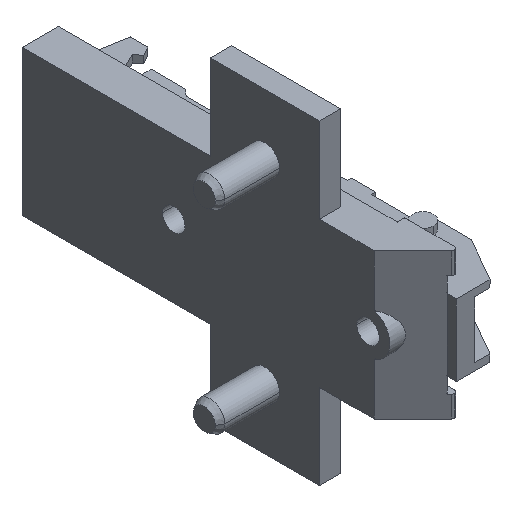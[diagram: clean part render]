
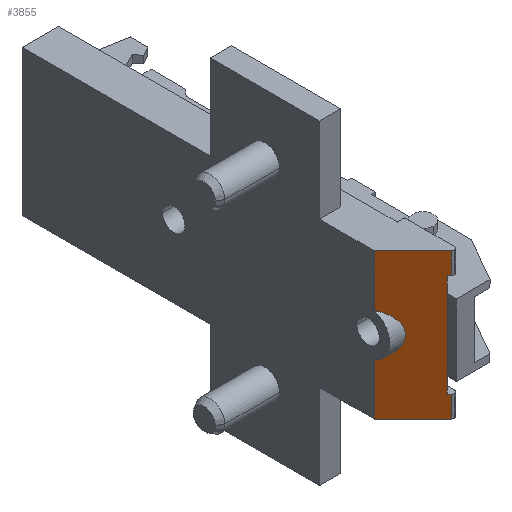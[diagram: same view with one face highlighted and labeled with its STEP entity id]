
A CAD part, isometric view. The second image highlights one B-rep face of the part: STEP entity #3855.
In plain terms, the highlighted planar face has unit normal (-0.707, -0.707, 0).
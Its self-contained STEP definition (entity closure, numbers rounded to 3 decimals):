
#2 =( BOUNDED_CURVE ( )  B_SPLINE_CURVE ( 3, ( #2893, #2908, #2910, #2911 ),
 .UNSPECIFIED., .F., .T. ) 
 B_SPLINE_CURVE_WITH_KNOTS ( ( 4, 4 ),
 ( 1.854, 4.429 ),
 .UNSPECIFIED. ) 
 CURVE ( )  GEOMETRIC_REPRESENTATION_ITEM ( )  RATIONAL_B_SPLINE_CURVE ( ( 1., 0.52, 0.52, 1. ) ) 
 REPRESENTATION_ITEM ( '' )  );
#5 = FACE_OUTER_BOUND ( 'NONE', #394, .T. ) ;
#122 = ORIENTED_EDGE ( 'NONE', *, *, #1398, .T. ) ;
#123 = ORIENTED_EDGE ( 'NONE', *, *, #1395, .T. ) ;
#162 = ORIENTED_EDGE ( 'NONE', *, *, #1393, .F. ) ;
#167 = ORIENTED_EDGE ( 'NONE', *, *, #1625, .T. ) ;
#171 = ORIENTED_EDGE ( 'NONE', *, *, #1384, .F. ) ;
#215 = VECTOR ( 'NONE', #2823, 1000. ) ;
#394 = EDGE_LOOP ( 'NONE', ( #162, #123, #511, #171, #167, #122, #502, #530, #516, #517, #582, #581 ) ) ;
#502 = ORIENTED_EDGE ( 'NONE', *, *, #1340, .T. ) ;
#511 = ORIENTED_EDGE ( 'NONE', *, *, #1597, .F. ) ;
#516 = ORIENTED_EDGE ( 'NONE', *, *, #1350, .T. ) ;
#517 = ORIENTED_EDGE ( 'NONE', *, *, #1399, .T. ) ;
#530 = ORIENTED_EDGE ( 'NONE', *, *, #1396, .F. ) ;
#581 = ORIENTED_EDGE ( 'NONE', *, *, #1382, .T. ) ;
#582 = ORIENTED_EDGE ( 'NONE', *, *, #1643, .T. ) ;
#873 = LINE ( 'NONE', #2167, #973 ) ;
#911 = VECTOR ( 'NONE', #3020, 1000. ) ;
#967 = LINE ( 'NONE', #3023, #911 ) ;
#973 = VECTOR ( 'NONE', #3066, 1000. ) ;
#1028 = VECTOR ( 'NONE', #2943, 1000. ) ;
#1031 = VECTOR ( 'NONE', #2935, 1000. ) ;
#1033 = LINE ( 'NONE', #2940, #1028 ) ;
#1035 = LINE ( 'NONE', #2919, #1037 ) ;
#1037 = VECTOR ( 'NONE', #2924, 1000. ) ;
#1038 = VECTOR ( 'NONE', #2891, 1000. ) ;
#1039 = LINE ( 'NONE', #2890, #1038 ) ;
#1045 = LINE ( 'NONE', #2927, #1031 ) ;
#1057 = LINE ( 'NONE', #2827, #1060 ) ;
#1060 = VECTOR ( 'NONE', #2828, 1000. ) ;
#1062 = LINE ( 'NONE', #2822, #215 ) ;
#1134 = VECTOR ( 'NONE', #3561, 1000. ) ;
#1160 = VECTOR ( 'NONE', #3288, 1000. ) ;
#1187 = LINE ( 'NONE', #3290, #1160 ) ;
#1225 = LINE ( 'NONE', #3557, #1134 ) ;
#1260 = LINE ( 'NONE', #3522, #1262 ) ;
#1262 = VECTOR ( 'NONE', #3521, 1000. ) ;
#1340 = EDGE_CURVE ( 'NONE', #2107, #2068, #873, .T. ) ;
#1350 = EDGE_CURVE ( 'NONE', #2187, #2184, #967, .T. ) ;
#1382 = EDGE_CURVE ( 'NONE', #1999, #2183, #1062, .T. ) ;
#1384 = EDGE_CURVE ( 'NONE', #2178, #2168, #1057, .T. ) ;
#1393 = EDGE_CURVE ( 'NONE', #2044, #2183, #1039, .T. ) ;
#1395 = EDGE_CURVE ( 'NONE', #2044, #2171, #2, .T. ) ;
#1396 = EDGE_CURVE ( 'NONE', #2187, #2068, #1035, .T. ) ;
#1398 = EDGE_CURVE ( 'NONE', #2043, #2107, #1045, .T. ) ;
#1399 = EDGE_CURVE ( 'NONE', #2184, #2177, #1033, .T. ) ;
#1597 = EDGE_CURVE ( 'NONE', #2168, #2171, #1187, .T. ) ;
#1625 = EDGE_CURVE ( 'NONE', #2178, #2043, #1260, .T. ) ;
#1643 = EDGE_CURVE ( 'NONE', #2177, #1999, #1225, .T. ) ;
#1999 = VERTEX_POINT ( 'NONE', #3738 ) ;
#2043 = VERTEX_POINT ( 'NONE', #3695 ) ;
#2044 = VERTEX_POINT ( 'NONE', #3694 ) ;
#2068 = VERTEX_POINT ( 'NONE', #3754 ) ;
#2107 = VERTEX_POINT ( 'NONE', #3811 ) ;
#2167 = CARTESIAN_POINT ( 'NONE',  ( 6., -24.007, -12. ) ) ;
#2168 = VERTEX_POINT ( 'NONE', #3475 ) ;
#2171 = VERTEX_POINT ( 'NONE', #3467 ) ;
#2177 = VERTEX_POINT ( 'NONE', #3482 ) ;
#2178 = VERTEX_POINT ( 'NONE', #3419 ) ;
#2183 = VERTEX_POINT ( 'NONE', #3415 ) ;
#2184 = VERTEX_POINT ( 'NONE', #3321 ) ;
#2187 = VERTEX_POINT ( 'NONE', #3416 ) ;
#2822 = CARTESIAN_POINT ( 'NONE',  ( 6.347, -24.354, 12. ) ) ;
#2823 = DIRECTION ( 'NONE',  ( -0.707, 0.707, 0. ) ) ;
#2827 = CARTESIAN_POINT ( 'NONE',  ( 6.347, -24.354, -12. ) ) ;
#2828 = DIRECTION ( 'NONE',  ( -0.707, 0.707, 0. ) ) ;
#2890 = CARTESIAN_POINT ( 'NONE',  ( 0., -18.007, -12. ) ) ;
#2891 = DIRECTION ( 'NONE',  ( 0., 0., 1. ) ) ;
#2893 = CARTESIAN_POINT ( 'NONE',  ( 0., -18.007, 3.456 ) ) ;
#2908 = CARTESIAN_POINT ( 'NONE',  ( 4.256, -22.263, 2.216 ) ) ;
#2910 = CARTESIAN_POINT ( 'NONE',  ( 4.256, -22.263, -2.216 ) ) ;
#2911 = CARTESIAN_POINT ( 'NONE',  ( 0., -18.007, -3.456 ) ) ;
#2919 = CARTESIAN_POINT ( 'NONE',  ( 6., -24.007, -12. ) ) ;
#2924 = DIRECTION ( 'NONE',  ( 0., 0., -1. ) ) ;
#2927 = CARTESIAN_POINT ( 'NONE',  ( 6.347, -24.354, -8.45 ) ) ;
#2935 = DIRECTION ( 'NONE',  ( -0.707, 0.707, 0. ) ) ;
#2940 = CARTESIAN_POINT ( 'NONE',  ( 6.347, -24.354, 8.45 ) ) ;
#2943 = DIRECTION ( 'NONE',  ( 0.707, -0.707, 0. ) ) ;
#3020 = DIRECTION ( 'NONE',  ( 0., 0., 1. ) ) ;
#3023 = CARTESIAN_POINT ( 'NONE',  ( 6., -24.007, -12. ) ) ;
#3066 = DIRECTION ( 'NONE',  ( 0., 0., 1. ) ) ;
#3088 = AXIS2_PLACEMENT_3D ( 'NONE', #3247, #3293, #3265 ) ;
#3228 = PLANE ( 'NONE',  #3088 ) ;
#3247 = CARTESIAN_POINT ( 'NONE',  ( 6.347, -24.354, -12. ) ) ;
#3265 = DIRECTION ( 'NONE',  ( 0.707, -0.707, 0. ) ) ;
#3288 = DIRECTION ( 'NONE',  ( 0., 0., 1. ) ) ;
#3290 = CARTESIAN_POINT ( 'NONE',  ( 0., -18.007, -12. ) ) ;
#3293 = DIRECTION ( 'NONE',  ( 0.707, 0.707, 0. ) ) ;
#3321 = CARTESIAN_POINT ( 'NONE',  ( 6., -24.007, 8.45 ) ) ;
#3415 = CARTESIAN_POINT ( 'NONE',  ( 0., -18.007, 12. ) ) ;
#3416 = CARTESIAN_POINT ( 'NONE',  ( 6., -24.007, 5.9 ) ) ;
#3419 = CARTESIAN_POINT ( 'NONE',  ( 6.347, -24.354, -12. ) ) ;
#3467 = CARTESIAN_POINT ( 'NONE',  ( 0., -18.007, -3.456 ) ) ;
#3475 = CARTESIAN_POINT ( 'NONE',  ( 0., -18.007, -12. ) ) ;
#3482 = CARTESIAN_POINT ( 'NONE',  ( 6.347, -24.354, 8.45 ) ) ;
#3521 = DIRECTION ( 'NONE',  ( 0., 0., 1. ) ) ;
#3522 = CARTESIAN_POINT ( 'NONE',  ( 6.347, -24.354, -12. ) ) ;
#3557 = CARTESIAN_POINT ( 'NONE',  ( 6.347, -24.354, -12. ) ) ;
#3561 = DIRECTION ( 'NONE',  ( 0., 0., 1. ) ) ;
#3694 = CARTESIAN_POINT ( 'NONE',  ( 0., -18.007, 3.456 ) ) ;
#3695 = CARTESIAN_POINT ( 'NONE',  ( 6.347, -24.354, -8.45 ) ) ;
#3738 = CARTESIAN_POINT ( 'NONE',  ( 6.347, -24.354, 12. ) ) ;
#3754 = CARTESIAN_POINT ( 'NONE',  ( 6., -24.007, -5.9 ) ) ;
#3811 = CARTESIAN_POINT ( 'NONE',  ( 6., -24.007, -8.45 ) ) ;
#3855 = ADVANCED_FACE ( 'NONE', ( #5 ), #3228, .F. ) ;
